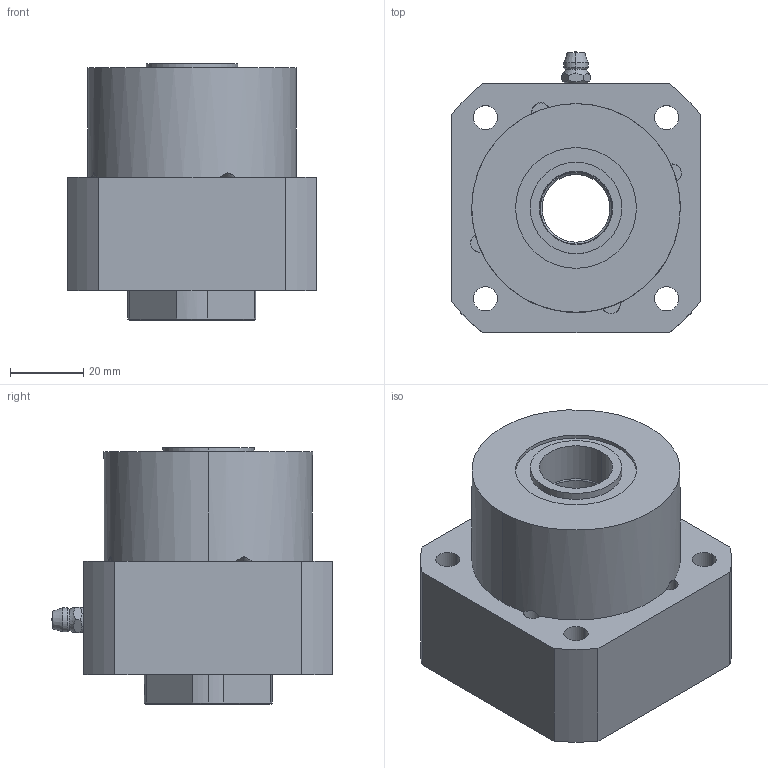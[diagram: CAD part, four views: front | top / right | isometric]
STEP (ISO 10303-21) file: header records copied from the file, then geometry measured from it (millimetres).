
FILE_DESCRIPTION (( 'STEP AP203' ), '1' );
FILE_NAME ('FK20G.STEP', '2018-09-15T03:20:33', ( '' ), ( '' ), 'SwSTEP 2.0', 'SolidWorks 2015', '' );
FILE_SCHEMA (( 'CONFIG_CONTROL_DESIGN' ));
Length unit declared in the file: millimetre
Products named in the file (1): FK20G
Bounding box: 68 x 76.9 x 70 mm (x, y, z)
Volume: 177879.4 mm3; surface area: 49101.3 mm2
Topology: 1 solids, 12 shells, 381 faces, 868 edges, 521 vertices
Faces by surface type: cylinder 133, plane 128, cone 65, torus 48, bspline 7
Entity records: 11094 total; most frequent: CARTESIAN_POINT 2273, DIRECTION 2000, ORIENTED_EDGE 1696, EDGE_CURVE 848, AXIS2_PLACEMENT_3D 830, VERTEX_POINT 521, CIRCLE 455, EDGE_LOOP 443
